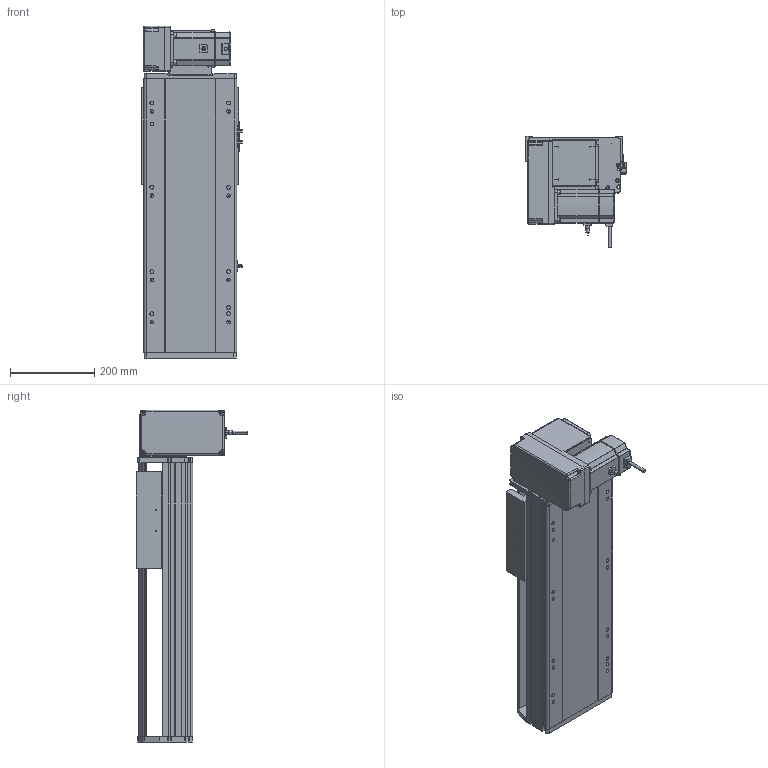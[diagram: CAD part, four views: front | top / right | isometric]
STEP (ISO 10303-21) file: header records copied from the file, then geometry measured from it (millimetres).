
FILE_DESCRIPTION (( 'STEP AP214' ), '1' );
FILE_NAME ('RTB22S-XX-300-LM-M75-C4.STEP', '2025-12-12T03:45:49', ( '' ), ( '' ), 'SwSTEP 2.0', 'SolidWorks 2018', '' );
FILE_SCHEMA (( 'AUTOMOTIVE_DESIGN' ));
Length unit declared in the file: millimetre
Products named in the file (14): RTB22S-L-011菁釱^RTB22S-XX-XX-LM-M75-C4; 750W萇儂^RTB22S-XX-XX-LM-M75-C4; RTB22S-GY-018P^RMP22S-LM-々湍釱蚾饜_RTB22S-XX-XX-LM-M75-C4; RTH22-GY-013外置感应片^RTB22S-XX-XX-LM-M75-C4; RTB22S-GY-001耜裔^RTB22S-XX-XX-LM-M75-C4; RTB22S-GY-017P^RMP22S-LM-々湍釱蚾饜_RTB22S-XX-XX-LM-M75-C4; RTB22S-GY-005P^RMP22S-LM-々湍釱蚾饜_RTB22S-XX-XX-LM-M75-C4; RMP22S-LM-々湍釱蚾饜^RTB22S-XX-XX-LM-M75-C4; OMRON EE-SX672 传感器^RTB22S-XX-XX-LM-M75-C4; RTB22S-XX-300-LM-M75-C4; RTB22S-GY-007奻裔^RTB22S-XX-XX-LM-M75-C4; RTB22S-GY-014--々湍釱^RMP22S-LM-々湍釱蚾饜_RTB22S-XX-XX-LM-M75-C4; RTB22S-GY-008-M75--萇儂啣^RMP22S-LM-々湍釱蚾饜_RTB22S-XX-XX-LM-M75-C4; RTB22S-L-004賑釱^RTB22S-XX-XX-LM-M75-C4
Assembly tree (16 placements, depth 3):
  RTB22S-XX-300-LM-M75-C4
    RTB22S-L-011菁釱^RTB22S-XX-XX-LM-M75-C4
    RTB22S-GY-001耜裔^RTB22S-XX-XX-LM-M75-C4
    750W萇儂^RTB22S-XX-XX-LM-M75-C4
    RTB22S-GY-007奻裔^RTB22S-XX-XX-LM-M75-C4
    RTB22S-L-004賑釱^RTB22S-XX-XX-LM-M75-C4
    RTH22-GY-013外置感应片^RTB22S-XX-XX-LM-M75-C4
    OMRON EE-SX672 传感器^RTB22S-XX-XX-LM-M75-C4  x3
    RMP22S-LM-々湍釱蚾饜^RTB22S-XX-XX-LM-M75-C4
      RTB22S-GY-014--々湍釱^RMP22S-LM-々湍釱蚾饜_RTB22S-XX-XX-LM-M75-C4
      RTB22S-GY-017P^RMP22S-LM-々湍釱蚾饜_RTB22S-XX-XX-LM-M75-C4  x2
      RTB22S-GY-005P^RMP22S-LM-々湍釱蚾饜_RTB22S-XX-XX-LM-M75-C4
      RTB22S-GY-008-M75--萇儂啣^RMP22S-LM-々湍釱蚾饜_RTB22S-XX-XX-LM-M75-C4
      RTB22S-GY-018P^RMP22S-LM-々湍釱蚾饜_RTB22S-XX-XX-LM-M75-C4
Bounding box: 238.5 x 264.7 x 787.5 mm (x, y, z)
Volume: 13133057.4 mm3; surface area: 1401170.8 mm2
Topology: 15 solids, 15 shells, 1911 faces, 5186 edges, 3332 vertices
Faces by surface type: plane 907, cylinder 574, bspline 296, cone 122, sphere 8, torus 4
Entity records: 50136 total; most frequent: CARTESIAN_POINT 14580, ORIENTED_EDGE 7192, DIRECTION 6850, EDGE_CURVE 3596, AXIS2_PLACEMENT_3D 2390, VERTEX_POINT 2336, LINE 2070, VECTOR 2070
